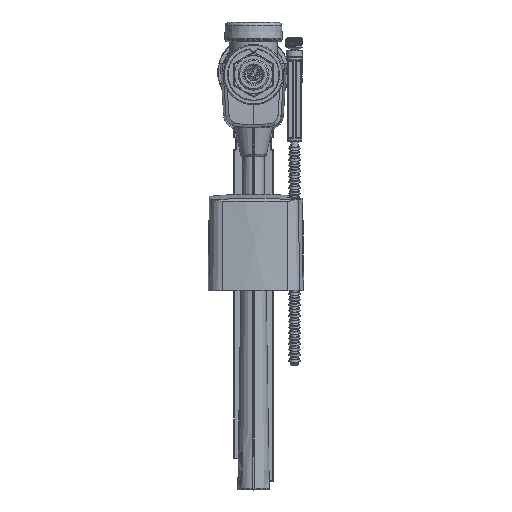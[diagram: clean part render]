
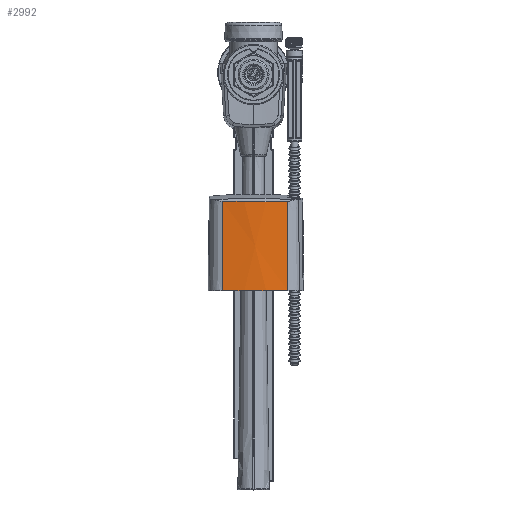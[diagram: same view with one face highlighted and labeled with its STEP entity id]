
A CAD part, front view. The second image highlights one B-rep face of the part: STEP entity #2992.
In plain terms, the highlighted conical face has half-angle 0.8 degrees and reference radius 120.48 mm.
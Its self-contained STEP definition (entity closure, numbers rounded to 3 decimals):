
#2992 = ADVANCED_FACE( '', ( #7615 ), #7616, .T. );
#7615 = FACE_OUTER_BOUND( '', #14950, .T. );
#7616 = CONICAL_SURFACE( '', #14951, 120.48, 0.014 );
#14950 = EDGE_LOOP( '', ( #25647, #25648, #25649, #25650 ) );
#14951 = AXIS2_PLACEMENT_3D( '', #25651, #25652, #25653 );
#25647 = ORIENTED_EDGE( '', *, *, #43056, .F. );
#25648 = ORIENTED_EDGE( '', *, *, #43057, .T. );
#25649 = ORIENTED_EDGE( '', *, *, #43058, .T. );
#25650 = ORIENTED_EDGE( '', *, *, #43059, .T. );
#25651 = CARTESIAN_POINT( '', ( 89.8, 0., 0. ) );
#25652 = DIRECTION( '', ( 0., -1., 0. ) );
#25653 = DIRECTION( '', ( 1., 0., 0. ) );
#43056 = EDGE_CURVE( '', #51542, #51543, #51544, .T. );
#43057 = EDGE_CURVE( '', #51542, #51545, #51546, .T. );
#43058 = EDGE_CURVE( '', #51545, #51547, #51548, .T. );
#43059 = EDGE_CURVE( '', #51547, #51543, #51549, .T. );
#51542 = VERTEX_POINT( '', #65683 );
#51543 = VERTEX_POINT( '', #65684 );
#51544 = B_SPLINE_CURVE_WITH_KNOTS( '', 3, ( #65685, #65686, #65687, #65688, #65689, #65690, #65691 ), .UNSPECIFIED., .F., .F., ( 4, 3, 4 ), ( 0.004, 0.014, 0.052 ), .UNSPECIFIED. );
#51545 = VERTEX_POINT( '', #65692 );
#51546 = B_SPLINE_CURVE_WITH_KNOTS( '', 3, ( #65693, #65694, #65695, #65696, #65697, #65698 ), .UNSPECIFIED., .F., .F., ( 4, 2, 4 ), ( 0., 0.018, 0.035 ), .UNSPECIFIED. );
#51547 = VERTEX_POINT( '', #65699 );
#51548 = B_SPLINE_CURVE_WITH_KNOTS( '', 3, ( #65700, #65701, #65702, #65703, #65704, #65705, #65706 ), .UNSPECIFIED., .F., .F., ( 4, 3, 4 ), ( 0.004, 0.014, 0.052 ), .UNSPECIFIED. );
#51549 = CIRCLE( '', #65707, 120.48 );
#65683 = CARTESIAN_POINT( '', ( -28.583, 48.263, 18.413 ) );
#65684 = CARTESIAN_POINT( '', ( -29.25, 0., 18.506 ) );
#65685 = CARTESIAN_POINT( '', ( -28.583, 48.263, 18.413 ) );
#65686 = CARTESIAN_POINT( '', ( -28.632, 44.727, 18.42 ) );
#65687 = CARTESIAN_POINT( '', ( -28.68, 41.19, 18.427 ) );
#65688 = CARTESIAN_POINT( '', ( -28.729, 37.654, 18.433 ) );
#65689 = CARTESIAN_POINT( '', ( -28.903, 25.103, 18.458 ) );
#65690 = CARTESIAN_POINT( '', ( -29.077, 12.551, 18.482 ) );
#65691 = CARTESIAN_POINT( '', ( -29.25, 0., 18.506 ) );
#65692 = CARTESIAN_POINT( '', ( -28.841, 48.223, -16.671 ) );
#65693 = CARTESIAN_POINT( '', ( -28.583, 48.263, 18.413 ) );
#65694 = CARTESIAN_POINT( '', ( -29.493, 48.122, 12.572 ) );
#65695 = CARTESIAN_POINT( '', ( -29.963, 48.054, 6.728 ) );
#65696 = CARTESIAN_POINT( '', ( -30.049, 48.041, -4.967 ) );
#65697 = CARTESIAN_POINT( '', ( -29.665, 48.096, -10.817 ) );
#65698 = CARTESIAN_POINT( '', ( -28.841, 48.223, -16.671 ) );
#65699 = CARTESIAN_POINT( '', ( -29.51, 0., -16.752 ) );
#65700 = CARTESIAN_POINT( '', ( -28.841, 48.223, -16.671 ) );
#65701 = CARTESIAN_POINT( '', ( -28.89, 44.7, -16.677 ) );
#65702 = CARTESIAN_POINT( '', ( -28.939, 41.177, -16.683 ) );
#65703 = CARTESIAN_POINT( '', ( -28.988, 37.654, -16.689 ) );
#65704 = CARTESIAN_POINT( '', ( -29.162, 25.103, -16.71 ) );
#65705 = CARTESIAN_POINT( '', ( -29.336, 12.551, -16.731 ) );
#65706 = CARTESIAN_POINT( '', ( -29.51, 0., -16.752 ) );
#65707 = AXIS2_PLACEMENT_3D( '', #84765, #84766, #84767 );
#84765 = CARTESIAN_POINT( '', ( 89.8, 0., 0. ) );
#84766 = DIRECTION( '', ( 0., 1., 0. ) );
#84767 = DIRECTION( '', ( 1., 0., 0. ) );
